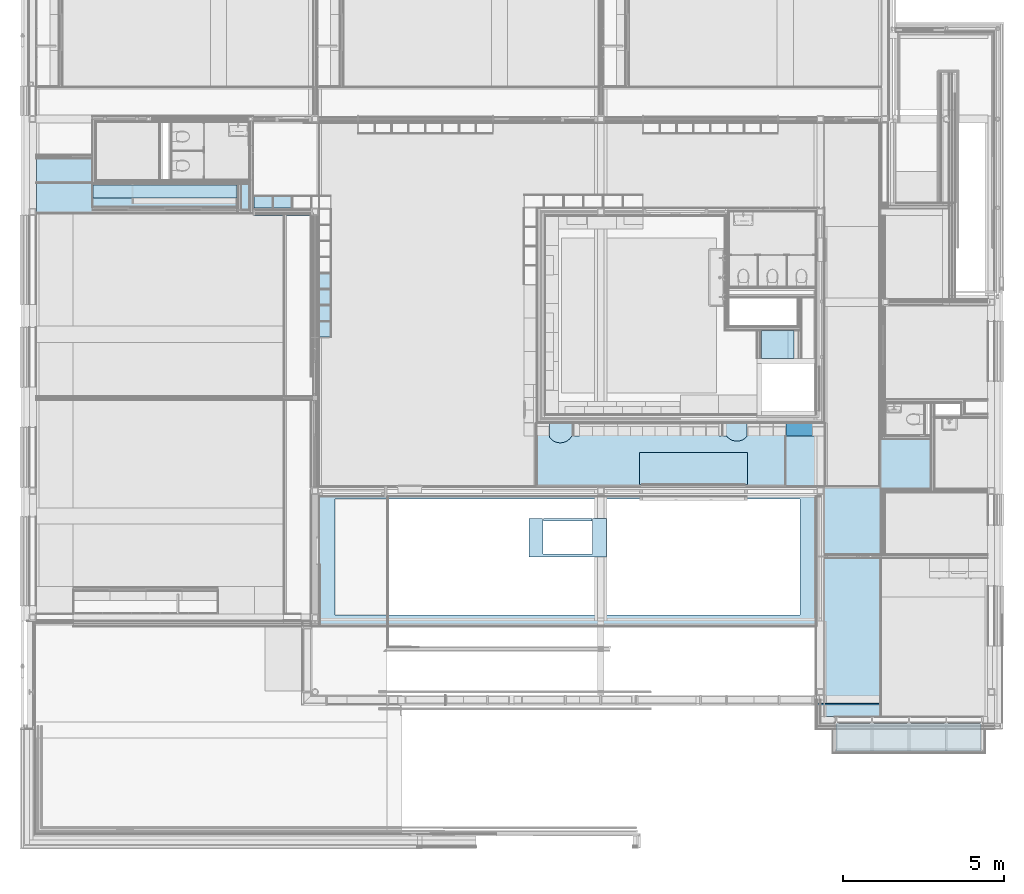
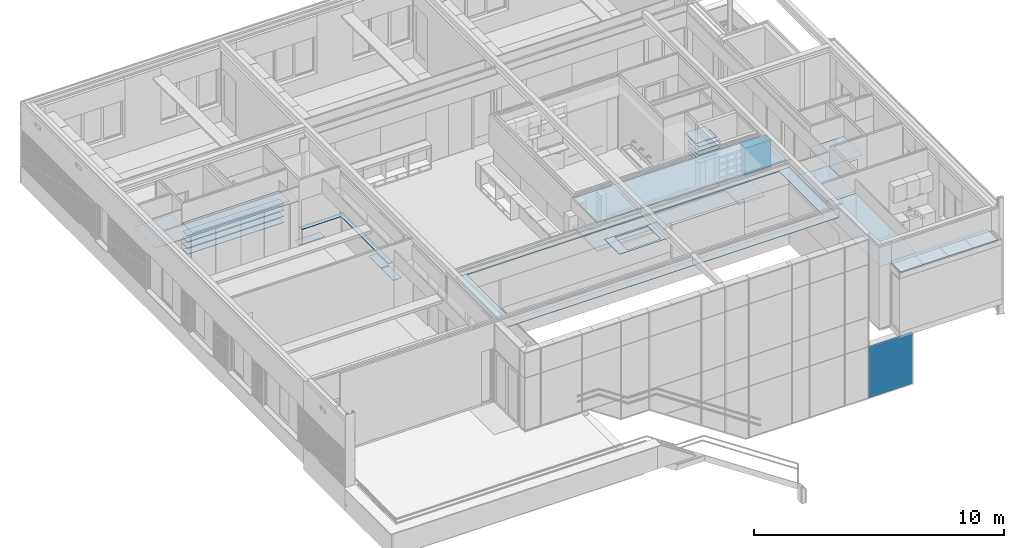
# One storey, part 38 of 137: 25 slabs, 1 plate, 1 element without a shape of its own.
"""IFC2X3 building model written with IfcOpenShell, lengths in millimetres."""

from ifc_helpers import new_model, entity, si_unit, converted_unit, derived_unit, money_unit, direction, frame, origin_with_axes, place, context, subcontext, project, spatial, faceted_brep, material, type_object, element, aggregate, save


model = new_model("IFC2X3")

# Units and contexts
model_context = context("Model", 3, precision=0.01, world=origin_with_axes(), true_north=direction((0.0, 1.0)))
body_context = subcontext(model_context, "Body", "Model", "MODEL_VIEW")
ifc_project = project(units=[si_unit("LENGTHUNIT", "METRE", prefix="MILLI"), si_unit("AREAUNIT", "SQUARE_METRE"), si_unit("VOLUMEUNIT", "CUBIC_METRE"), converted_unit("PLANEANGLEUNIT", "DEGREE", entity("IfcPlaneAngleMeasure", 0.0174532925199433), si_unit("PLANEANGLEUNIT", "RADIAN"), dimensions=[0, 0, 0, 0, 0, 0, 0]), money_unit("EUR"), converted_unit("TIMEUNIT", "Year", entity("IfcTimeMeasure", 31556926.0), si_unit("TIMEUNIT", "SECOND"), dimensions=[0, 0, 1, 0, 0, 0, 0]), si_unit("MASSUNIT", "GRAM", prefix="KILO"), si_unit("THERMODYNAMICTEMPERATUREUNIT", "DEGREE_CELSIUS"), si_unit("LUMINOUSINTENSITYUNIT", "LUMEN"), si_unit("ENERGYUNIT", "JOULE", prefix="MEGA"), derived_unit("THERMALCONDUCTANCEUNIT", [(si_unit("POWERUNIT", "WATT"), 1), (si_unit("LENGTHUNIT", "METRE"), -1), (si_unit("THERMODYNAMICTEMPERATUREUNIT", "KELVIN"), -1)]), derived_unit("SPECIFICHEATCAPACITYUNIT", [(si_unit("ENERGYUNIT", "JOULE"), 1), (si_unit("MASSUNIT", "GRAM", prefix="KILO"), -1), (si_unit("THERMODYNAMICTEMPERATUREUNIT", "KELVIN"), -1)]), derived_unit("MASSDENSITYUNIT", [(si_unit("MASSUNIT", "GRAM", prefix="KILO"), 1), (si_unit("VOLUMEUNIT", "CUBIC_METRE"), -1)])], contexts=[model_context])

# Site, building, storey
site_placement = place(None, origin_with_axes())
site = spatial("IfcSite", under=ifc_project, at=site_placement, Name="Site", CompositionType="ELEMENT")
building_placement = place(site_placement, origin_with_axes())
building = spatial("IfcBuilding", under=site, at=building_placement, Name="Naam gebouw", CompositionType="ELEMENT")
storey_placement = place(building_placement, frame((0.0, 0.0, 3960.0), z_axis=(0.0, 0.0, 1.0), x_axis=(1.0, 0.0, 0.0)))
storey = spatial("IfcBuildingStorey", under=building, at=storey_placement, Name="1e verdieping", CompositionType="ELEMENT", Elevation=3960.0)

# Slabs
ifc_material_1 = material(Name="Gipsplaat")
slab_type_1 = type_object("IfcSlabType", Name="Gipsplaat 12", PredefinedType="NOTDEFINED")
slab_1_placement = place(storey_placement, frame((213.9999999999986, 19387.4998112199, 2600.0), z_axis=(0.0, 0.0, 1.0), x_axis=(1.0, 0.0, 0.0)))
element("IfcSlab", 1, at=slab_1_placement, inside=storey, type_object=slab_type_1, material=ifc_material_1, Name="f7 Vormvaste grondstoffen, gebonden met gips_Vloer-x", PredefinedType="NOTDEFINED", context=body_context, shape_type="Brep", body=[
    faceted_brep([(0.0, 0.0, 11.99999999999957), (0.0, 0.0, 0.0), (6601.000000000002, 0.0, 0.0), (6601.000000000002, 0.0, 11.99999999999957), (0.0, 1707.476402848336, 11.99999999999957), (0.0, 1707.476402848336, 0.0), (1730.000000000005, 1707.476402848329, 0.0), (1730.000000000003, 917.4764028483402, 0.0), (6601.000000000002, 917.4764028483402, 0.0), (6601.000000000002, 917.4764028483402, 11.99999999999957), (1730.000000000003, 917.4764028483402, 11.99999999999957), (1730.000000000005, 1707.476402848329, 11.99999999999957)], [[[0, 1, 2, 3]], [[4, 5, 1, 0]], [[2, 1, 5, 6, 7, 8]], [[3, 2, 8, 9]], [[4, 0, 3, 9, 10, 11]], [[11, 6, 5, 4]], [[10, 7, 6, 11]], [[9, 8, 7, 10]]]),
])
slab_2_placement = place(storey_placement, frame((26323.50000000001, 10945.00008065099, 2600.0), z_axis=(0.0, 0.0, 1.0), x_axis=(1.0, 0.0, 0.0)))
element("IfcSlab", 2, at=slab_2_placement, inside=storey, type_object=slab_type_1, material=ifc_material_1, Name="f7 Vormvaste grondstoffen, gebonden met gips_Vloer-x", PredefinedType="NOTDEFINED", context=body_context, shape_type="Brep", body=[
    faceted_brep([(0.0, 0.0, 11.99999999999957), (0.0, 0.0, 0.0), (-1688.500960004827, 0.0, 0.0), (-1688.500960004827, 0.0, 11.99999999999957), (0.0, 1454.991507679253, 11.99999999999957), (0.0, 1454.991507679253, 0.0), (1601.497639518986, 1454.991507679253, 0.0), (1601.497639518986, -72.49997492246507, 0.0), (62.49998783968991, -72.49997492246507, 0.0), (62.49998783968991, -2105.000080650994, 0.0), (-1688.500960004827, -2105.000080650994, 0.0), (-1688.500960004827, -2105.000080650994, 11.99999999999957), (62.49998783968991, -2105.000080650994, 11.99999999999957), (62.49998783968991, -72.49997492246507, 11.99999999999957), (1601.497639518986, -72.49997492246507, 11.99999999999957), (1601.497639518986, 1454.991507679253, 11.99999999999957)], [[[0, 1, 2, 3]], [[4, 5, 1, 0]], [[2, 1, 5, 6, 7, 8, 9, 10]], [[3, 2, 10, 11]], [[4, 0, 3, 11, 12, 13, 14, 15]], [[15, 6, 5, 4]], [[14, 7, 6, 15]], [[13, 8, 7, 14]], [[12, 9, 8, 13]], [[11, 10, 9, 12]]]),
])
slab_3_placement = place(storey_placement, frame((22564.99903999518, 15774.99778168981, 2600.0), z_axis=(0.0, 0.0, 1.0), x_axis=(1.0, 0.0, 0.0)))
element("IfcSlab", 3, at=slab_3_placement, inside=storey, type_object=slab_type_1, material=ifc_material_1, Name="f7 Vormvaste grondstoffen, gebonden met gips_Vloer-x", PredefinedType="NOTDEFINED", context=body_context, shape_type="Brep", body=[
    faceted_brep([(0.0, 0.0, 12.00000000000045), (0.0, 0.0, 0.0), (-7.191758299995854e-08, -875.0000795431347, 0.0), (-7.191758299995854e-08, -875.0000795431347, 12.00000000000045), (934.9999999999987, -7.684874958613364e-08, 12.00000000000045), (934.9999999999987, -7.684874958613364e-08, 0.0), (934.9999999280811, -875.0000796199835, 0.0), (934.9999999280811, -875.0000796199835, 12.00000000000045)], [[[0, 1, 2, 3]], [[4, 5, 1, 0]], [[2, 1, 5, 6]], [[3, 2, 6, 7]], [[4, 0, 3, 7]], [[7, 6, 5, 4]]]),
])
slab_4_placement = place(storey_placement, frame((26386.00000000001, 8715.0, 2600.0), z_axis=(0.0, 0.0, 1.0), x_axis=(1.0, 0.0, 0.0)))
element("IfcSlab", 4, at=slab_4_placement, inside=storey, type_object=slab_type_1, material=ifc_material_1, Name="f7 Vormvaste grondstoffen, gebonden met gips_Vloer-x", PredefinedType="NOTDEFINED", context=body_context, shape_type="Brep", body=[
    faceted_brep([(0.0, 0.0, 11.99999999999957), (0.0, 0.0, 0.0), (-1751.000960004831, 0.0, 0.0), (-1751.000960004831, 0.0, 11.99999999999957), (0.0, -4901.000000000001, 11.99999999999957), (0.0, -4901.000000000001, 0.0), (-1751.000960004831, -4901.000000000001, 0.0), (-1751.000960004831, -4901.000000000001, 11.99999999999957)], [[[0, 1, 2, 3]], [[4, 5, 1, 0]], [[2, 1, 5, 6]], [[3, 2, 6, 7]], [[4, 0, 3, 7]], [[7, 6, 5, 4]]]),
])
ifc_material_2 = material(Name="Hout AFW")
slab_type_2 = type_object("IfcSlabType", Name="Hout AFW 18", PredefinedType="NOTDEFINED")
slab_5_placement = place(storey_placement, frame((8135.000015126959, 19950.00381393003, 267.9999999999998), z_axis=(0.0, 0.0, 1.0), x_axis=(1.0, 0.0, 0.0)))
element("IfcSlab", 5, at=slab_5_placement, inside=storey, type_object=slab_type_2, material=ifc_material_2, Name="i HOUT_Vloer-x", PredefinedType="NOTDEFINED", context=body_context, shape_type="Brep", body=[
    faceted_brep([(0.0, 0.0, 18.00000000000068), (0.0, 0.0, 0.0), (-1175.000015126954, 0.0, 0.0), (-1175.000015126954, 0.0, 18.00000000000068), (0.0, -380.006513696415, 18.00000000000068), (0.0, -380.006513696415, 0.0), (-1175.000015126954, -380.0065136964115, 0.0), (-1175.000015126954, -380.0065136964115, 18.00000000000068)], [[[0, 1, 2, 3]], [[4, 5, 1, 0]], [[2, 1, 5, 6]], [[3, 2, 6, 7]], [[4, 0, 3, 7]], [[7, 6, 5, 4]]]),
])
slab_6_placement = place(storey_placement, frame((9350.004002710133, 16564.99981090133, 267.9999999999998), z_axis=(0.0, 0.0, 1.0), x_axis=(1.0, 0.0, 0.0)))
element("IfcSlab", 6, at=slab_6_placement, inside=storey, type_object=slab_type_2, material=ifc_material_2, Name="i HOUT_Vloer-x", PredefinedType="NOTDEFINED", context=body_context, shape_type="Brep", body=[
    faceted_brep([(0.0, 0.0, 18.00000000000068), (0.0, 0.0, 0.0), (0.0, 975.0000003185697, 0.0), (0.0, 975.0000003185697, 18.00000000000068), (-380.006513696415, 0.0, 18.00000000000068), (-380.006513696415, 0.0, 0.0), (-380.006513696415, 975.0000003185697, 0.0), (-380.006513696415, 975.0000003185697, 18.00000000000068)], [[[0, 1, 2, 3]], [[4, 5, 1, 0]], [[2, 1, 5, 6]], [[3, 2, 6, 7]], [[4, 0, 3, 7]], [[7, 6, 5, 4]]]),
])
slab_7_placement = place(storey_placement, frame((8969.997489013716, 15569.9998112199, 267.9999999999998), z_axis=(0.0, 0.0, 1.0), x_axis=(1.0, 0.0, 0.0)))
element("IfcSlab", 7, at=slab_7_placement, inside=storey, type_object=slab_type_2, material=ifc_material_2, Name="i HOUT_Vloer-x", PredefinedType="NOTDEFINED", context=body_context, shape_type="Brep", body=[
    faceted_brep([(0.0, 0.0, 18.00000000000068), (0.0, 0.0, 0.0), (380.006513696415, 0.0, 0.0), (380.006513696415, 0.0, 18.00000000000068), (0.0, 974.9999996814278, 18.00000000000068), (0.0, 974.9999996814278, 0.0), (380.0065136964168, 974.9999996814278, 0.0), (380.0065136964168, 974.9999996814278, 18.00000000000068)], [[[0, 1, 2, 3]], [[4, 5, 1, 0]], [[2, 1, 5, 6]], [[3, 2, 6, 7]], [[4, 0, 3, 7]], [[7, 6, 5, 4]]]),
])
ifc_material_3 = material(Name="Hout - Multiplex")
slab_type_3 = type_object("IfcSlabType", Name="Hout - Multiplex 20", PredefinedType="NOTDEFINED")
slab_8_placement = place(storey_placement, frame((6940.000053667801, 19337.49983699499, 1200.0), z_axis=(0.0, 0.0, 1.0), x_axis=(1.0, 0.0, 0.0)))
element("IfcSlab", 8, at=slab_8_placement, inside=storey, type_object=slab_type_3, material=ifc_material_3, Name="i4 In lagen verlijmd hout_Vloer-x", PredefinedType="NOTDEFINED", context=body_context, shape_type="Brep", body=[
    faceted_brep([(0.0, 0.0, 0.0), (0.0, 0.0, -19.99999999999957), (1797.500308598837, 0.0, -19.99999999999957), (1797.500308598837, 0.0, 0.0), (0.0, 212.4999742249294, 0.0), (0.0, 212.4999742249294, -19.99999999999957), (2009.999925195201, 212.4999742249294, -19.99999999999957), (2009.999925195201, -3787.504028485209, -19.99999999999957), (1797.500308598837, -3787.504028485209, -19.99999999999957), (1797.500308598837, -3787.504028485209, 0.0), (2009.999925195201, -3787.504028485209, 0.0), (2009.999925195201, 212.4999742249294, 0.0)], [[[0, 1, 2, 3]], [[4, 5, 1, 0]], [[2, 1, 5, 6, 7, 8]], [[3, 2, 8, 9]], [[4, 0, 3, 9, 10, 11]], [[11, 6, 5, 4]], [[10, 7, 6, 11]], [[9, 8, 7, 10]]]),
])
slab_9_placement = place(storey_placement, frame((1964.000000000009, 19882.97621406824, 2300.0), z_axis=(0.0, 0.0, 1.0), x_axis=(1.0, 0.0, 0.0)))
element("IfcSlab", 9, at=slab_9_placement, inside=storey, type_object=slab_type_3, material=ifc_material_3, Name="i4 In lagen verlijmd hout_Vloer-x", PredefinedType="NOTDEFINED", context=body_context, shape_type="Brep", body=[
    faceted_brep([(0.0, 0.0, 0.0), (0.0, 0.0, -19.99999999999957), (4460.000000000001, 0.0, -19.99999999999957), (4460.000000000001, 0.0, 0.0), (0.0, 400.0000000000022, 0.0), (0.0, 400.0000000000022, -19.99999999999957), (4460.000000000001, 400.0000000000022, -19.99999999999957), (4460.000000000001, 400.0000000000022, 0.0)], [[[0, 1, 2, 3]], [[4, 5, 1, 0]], [[2, 1, 5, 6]], [[3, 2, 6, 7]], [[4, 0, 3, 7]], [[7, 6, 5, 4]]]),
])
slab_10_placement = place(storey_placement, frame((1964.000000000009, 19882.97621406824, 1999.999999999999), z_axis=(0.0, 0.0, 1.0), x_axis=(1.0, 0.0, 0.0)))
element("IfcSlab", 10, at=slab_10_placement, inside=storey, type_object=slab_type_3, material=ifc_material_3, Name="i4 In lagen verlijmd hout_Vloer-x", PredefinedType="NOTDEFINED", context=body_context, shape_type="Brep", body=[
    faceted_brep([(0.0, 0.0, 0.0), (0.0, 0.0, -19.99999999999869), (4460.000000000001, 0.0, -19.99999999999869), (4460.000000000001, 0.0, 0.0), (0.0, 400.0000000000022, 0.0), (0.0, 400.0000000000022, -19.99999999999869), (4460.000000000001, 400.0000000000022, -19.99999999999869), (4460.000000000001, 400.0000000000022, 0.0)], [[[0, 1, 2, 3]], [[4, 5, 1, 0]], [[2, 1, 5, 6]], [[3, 2, 6, 7]], [[4, 0, 3, 7]], [[7, 6, 5, 4]]]),
])
slab_11_placement = place(storey_placement, frame((1964.000000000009, 19882.97621406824, 1400.0), z_axis=(0.0, 0.0, 1.0), x_axis=(1.0, 0.0, 0.0)))
element("IfcSlab", 11, at=slab_11_placement, inside=storey, type_object=slab_type_3, material=ifc_material_3, Name="i4 In lagen verlijmd hout_Vloer-x", PredefinedType="NOTDEFINED", context=body_context, shape_type="Brep", body=[
    faceted_brep([(0.0, 0.0, 0.0), (0.0, 0.0, -19.99999999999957), (4460.000000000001, 0.0, -19.99999999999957), (4460.000000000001, 0.0, 0.0), (0.0, 400.0000000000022, 0.0), (0.0, 400.0000000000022, -19.99999999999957), (4460.000000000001, 400.0000000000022, -19.99999999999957), (4460.000000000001, 400.0000000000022, 0.0)], [[[0, 1, 2, 3]], [[4, 5, 1, 0]], [[2, 1, 5, 6]], [[3, 2, 6, 7]], [[4, 0, 3, 7]], [[7, 6, 5, 4]]]),
])
slab_12_placement = place(storey_placement, frame((1964.000000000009, 19882.97621406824, 1699.999999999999), z_axis=(0.0, 0.0, 1.0), x_axis=(1.0, 0.0, 0.0)))
element("IfcSlab", 12, at=slab_12_placement, inside=storey, type_object=slab_type_3, material=ifc_material_3, Name="i4 In lagen verlijmd hout_Vloer-x", PredefinedType="NOTDEFINED", context=body_context, shape_type="Brep", body=[
    faceted_brep([(0.0, 0.0, 0.0), (0.0, 0.0, -19.99999999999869), (4460.000000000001, 0.0, -19.99999999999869), (4460.000000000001, 0.0, 0.0), (0.0, 400.0000000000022, 0.0), (0.0, 400.0000000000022, -19.99999999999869), (4460.000000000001, 400.0000000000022, -19.99999999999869), (4460.000000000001, 400.0000000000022, 0.0)], [[[0, 1, 2, 3]], [[4, 5, 1, 0]], [[2, 1, 5, 6]], [[3, 2, 6, 7]], [[4, 0, 3, 7]], [[7, 6, 5, 4]]]),
])
slab_13_placement = place(storey_placement, frame((1964.000000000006, 19477.97621406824, 2689.999999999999), z_axis=(0.0, 0.0, 1.0), x_axis=(1.0, 0.0, 0.0)))
element("IfcSlab", 13, at=slab_13_placement, inside=storey, type_object=slab_type_3, material=ifc_material_3, Name="i4 In lagen verlijmd hout_Vloer-x", PredefinedType="NOTDEFINED", context=body_context, shape_type="Brep", body=[
    faceted_brep([(0.0, 0.0, 0.0), (0.0, 0.0, -19.99999999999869), (4460.000000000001, 0.0, -19.99999999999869), (4460.000000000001, 0.0, 0.0), (0.0, 825.0000000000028, 0.0), (0.0, 825.0000000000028, -19.99999999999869), (4460.000000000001, 825.0000000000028, -19.99999999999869), (4460.000000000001, 825.0000000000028, 0.0)], [[[0, 1, 2, 3]], [[4, 5, 1, 0]], [[2, 1, 5, 6]], [[3, 2, 6, 7]], [[4, 0, 3, 7]], [[7, 6, 5, 4]]]),
])
ifc_material_4 = material(Name="Isolatie - Kunststof hard")
slab_type_4 = type_object("IfcSlabType", Name="Isolatie - Kunststof hard 78", PredefinedType="NOTDEFINED")
slab_14_placement = place(storey_placement, frame((24979.99903898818, 3600.000178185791, 2792.000000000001), z_axis=(0.0, 0.0, 1.0), x_axis=(1.0, 0.0, 0.0)))
element("IfcSlab", 14, at=slab_14_placement, inside=storey, type_object=slab_type_4, material=ifc_material_4, Name="n7 Kunststof met cellenstructuur_Vloer-x", PredefinedType="NOTDEFINED", context=body_context, shape_type="Brep", body=[
    faceted_brep([(0.0, 0.0, 78.00000000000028), (0.0, 0.0, 0.0), (0.0, -850.0001781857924, 0.0), (0.0, -850.0001781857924, 78.00000000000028), (4500.001821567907, 0.0, 78.00000000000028), (4500.001821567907, 0.0, 0.0), (4500.001821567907, -850.0001781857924, 0.0), (4500.001821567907, -850.0001781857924, 78.00000000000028)], [[[0, 1, 2, 3]], [[4, 5, 1, 0]], [[2, 1, 5, 6]], [[3, 2, 6, 7]], [[4, 0, 3, 7]], [[7, 6, 5, 4]]]),
])
slab_type_5 = type_object("IfcSlabType", Name="Gipsplaat 25", PredefinedType="NOTDEFINED")
slab_15_placement = place(storey_placement, frame((8985.001509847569, 6605.0, 3400.0), z_axis=(0.0, 0.0, 1.0), x_axis=(1.0, 0.0, 0.0)))
element("IfcSlab", 15, at=slab_15_placement, inside=storey, type_object=slab_type_5, material=ifc_material_1, Name="f7 Vormvaste grondstoffen, gebonden met gips_Vloer-x", PredefinedType="NOTDEFINED", context=body_context, shape_type="Brep", body=[
    faceted_brep([(0.0, 0.0, 24.99999999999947), (0.0, 0.0, 0.0), (15379.99753014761, 0.0, 0.0), (15379.99753014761, 0.0, 24.99999999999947), (0.0, 4015.000094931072, 24.99999999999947), (0.0, 4015.000094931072, 0.0), (15379.99753014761, 4015.000094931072, 0.0), (14889.99753939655, 3950.00031890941, 0.0), (489.9974697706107, 3950.00031890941, 0.0), (489.9974697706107, 350.0002129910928, 0.0), (14889.99753939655, 350.0002129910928, 0.0), (15379.99753014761, 4015.000094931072, 24.99999999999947), (489.9974697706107, 350.0002129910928, 24.99999999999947), (489.9974697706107, 3950.00031890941, 24.99999999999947), (14889.99753939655, 3950.00031890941, 24.99999999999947), (14889.99753939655, 350.0002129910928, 24.99999999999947)], [[[0, 1, 2, 3]], [[4, 5, 1, 0]], [[2, 1, 5, 6], [7, 8, 9, 10]], [[3, 2, 6, 11]], [[4, 0, 3, 11], [12, 13, 14, 15]], [[11, 6, 5, 4]], [[13, 8, 7, 14]], [[12, 9, 8, 13]], [[15, 10, 9, 12]], [[14, 7, 10, 15]]]),
])
slab_16_placement = place(storey_placement, frame((15474.99903999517, 8755.000212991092, 3400.0), z_axis=(0.0, 0.0, 1.0), x_axis=(1.0, 0.0, 0.0)))
element("IfcSlab", 16, at=slab_16_placement, inside=storey, type_object=slab_type_5, material=ifc_material_1, Name="f7 Vormvaste grondstoffen, gebonden met gips_Vloer-x", PredefinedType="NOTDEFINED", context=body_context, shape_type="Brep", body=[
    faceted_brep([(437.5000000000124, 102.5001059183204, 24.99999999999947), (437.5000000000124, 1127.500105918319, 24.99999999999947), (437.5000000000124, 1140.00010591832, 24.99999999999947), (425.0000000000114, 1140.00010591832, 24.99999999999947), (425.0000000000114, 1200.000000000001, 24.99999999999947), (0.0, 1200.000000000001, 24.99999999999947), (0.0, 0.0, 24.99999999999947), (2400.0, 0.0, 24.99999999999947), (2400.0, 1200.000000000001, 24.99999999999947), (1975.00000000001, 1200.000000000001, 24.99999999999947), (1975.00000000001, 1140.00010591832, 24.99999999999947), (1962.500000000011, 1140.00010591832, 24.99999999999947), (1962.500000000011, 1127.500105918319, 24.99999999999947), (1962.500000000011, 115.0001059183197, 24.99999999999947), (1962.500000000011, 102.5001059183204, 24.99999999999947), (1950.000000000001, 102.5001059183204, 24.99999999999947), (1950.000000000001, 100.0001059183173, 24.99999999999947), (450.0000000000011, 100.0001059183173, 24.99999999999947), (450.0000000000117, 102.5001059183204, 24.99999999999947), (437.5000000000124, 102.5001059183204, 0.0), (437.5000000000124, 1127.500105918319, 0.0), (437.5000000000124, 1140.00010591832, 0.0), (425.0000000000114, 1140.00010591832, 0.0), (425.0000000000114, 1200.000000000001, 0.0), (0.0, 1200.000000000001, 0.0), (0.0, 0.0, 0.0), (2400.0, 0.0, 0.0), (2400.0, 1200.000000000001, 0.0), (1975.00000000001, 1200.000000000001, 0.0), (1975.00000000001, 1140.00010591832, 0.0), (1962.500000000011, 1140.00010591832, 0.0), (1962.500000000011, 1127.500105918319, 0.0), (1962.500000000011, 115.0001059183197, 0.0), (1962.500000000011, 102.5001059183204, 0.0), (1950.000000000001, 102.5001059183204, 0.0), (1950.000000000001, 100.0001059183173, 0.0), (450.0000000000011, 100.0001059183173, 0.0), (450.0000000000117, 102.5001059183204, 0.0)], [[[0, 1, 2, 3, 4, 5, 6, 7, 8, 9, 10, 11, 12, 13, 14, 15, 16, 17, 18]], [[19, 20, 1, 0]], [[20, 21, 2, 1]], [[3, 2, 21, 22]], [[22, 23, 4, 3]], [[5, 4, 23, 24]], [[6, 5, 24, 25]], [[7, 6, 25, 26]], [[8, 7, 26, 27]], [[27, 28, 9, 8]], [[29, 10, 9, 28]], [[29, 30, 11, 10]], [[31, 12, 11, 30]], [[13, 12, 31, 32]], [[14, 13, 32, 33]], [[34, 15, 14, 33]], [[16, 15, 34, 35]], [[17, 16, 35, 36]], [[36, 37, 18, 17]], [[19, 0, 18, 37]], [[22, 21, 20, 19, 37, 36, 35, 34, 33, 32, 31, 30, 29, 28, 27, 26, 25, 24, 23]]]),
    faceted_brep([(450.0000000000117, 1200.000000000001, 24.99999999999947), (450.0000000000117, 1200.000000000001, 0.0), (450.0000000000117, 1127.500105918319, 0.0), (450.0000000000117, 1127.500105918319, 24.99999999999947), (1950.000000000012, 1200.000000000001, 0.0), (1950.000000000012, 1200.000000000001, 24.99999999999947), (450.0000000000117, 1115.00010591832, 0.0), (1950.000000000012, 1127.500105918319, 0.0), (1950.000000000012, 1115.00010591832, 0.0), (450.0000000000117, 1115.00010591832, 24.99999999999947), (1950.000000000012, 1115.00010591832, 24.99999999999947), (1950.000000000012, 1127.500105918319, 24.99999999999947)], [[[0, 1, 2, 3]], [[4, 1, 0, 5]], [[6, 2, 1, 4, 7, 8]], [[9, 3, 2, 6]], [[0, 3, 9, 10, 11, 5]], [[4, 5, 11, 7]], [[8, 7, 11, 10]], [[6, 8, 10, 9]]]),
])
ifc_material_5 = material(Name="ALG - BINNENAFWERKING")
slab_type_6 = type_object("IfcSlabType", Name="ALG - BINNENAFWERKING 1337", PredefinedType="NOTDEFINED")
slab_17_placement = place(storey_placement, frame((23434.99903999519, 12504.99776626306, 3527.000000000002), z_axis=(0.0, 0.0, 1.0), x_axis=(1.0, 0.0, 0.0)))
element("IfcSlab", 17, at=slab_17_placement, inside=storey, type_object=slab_type_6, material=ifc_material_5, Name="_Vloer-x", PredefinedType="NOTDEFINED", context=body_context, shape_type="Brep", body=[
    faceted_brep([(0.0, 0.0, 0.0), (0.0, 0.0, -1337.000000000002), (1199.999999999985, 0.0, -1337.000000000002), (1199.999999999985, 0.0, 0.0), (0.0, 425.0095126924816, 0.0), (0.0, 425.0095126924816, -1337.000000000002), (399.9999971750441, 425.0095126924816, -1337.000000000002), (399.9999971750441, 399.9999971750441, -1337.000000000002), (1199.999999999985, 399.9999971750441, -1337.000000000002), (1199.999999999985, 399.9999971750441, 0.0), (399.9999971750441, 399.9999971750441, 0.0), (399.9999971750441, 425.0095126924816, 0.0)], [[[0, 1, 2, 3]], [[4, 5, 1, 0]], [[2, 1, 5, 6, 7, 8]], [[3, 2, 8, 9]], [[4, 0, 3, 9, 10, 11]], [[11, 6, 5, 4]], [[10, 7, 6, 11]], [[9, 8, 7, 10]]]),
])
slab_type_7 = type_object("IfcSlabType", Name="Gipsplaat 33", PredefinedType="NOTDEFINED")
slab_18_placement = place(storey_placement, frame((16114.99944436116, 12904.99781947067, 3527.000000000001), z_axis=(0.0, 0.0, 1.0), x_axis=(1.0, 0.0, 0.0)))
element("IfcSlab", 18, at=slab_18_placement, inside=storey, type_object=slab_type_7, material=ifc_material_1, Name="f7 Vormvaste grondstoffen, gebonden met gips_Vloer-x", PredefinedType="NOTDEFINED", context=body_context, shape_type="Brep", body=[
    faceted_brep([(-399.9999904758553, 0.0, 33.00000000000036), (-399.9999904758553, 0.0, 0.0), (-399.9999904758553, -1954.997681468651, 0.0), (-399.9999904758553, -1954.997681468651, 33.00000000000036), (8519.999595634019, 0.0, 33.00000000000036), (8519.999595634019, 0.0, 0.0), (8519.999595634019, -2009.997708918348, 0.0), (2785.000019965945, -2009.997708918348, 0.0), (2785.000019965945, -1954.997681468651, 0.0), (2785.000019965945, -1954.997681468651, 33.00000000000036), (2785.000019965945, -2009.997708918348, 33.00000000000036), (8519.999595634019, -2009.997708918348, 33.00000000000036)], [[[0, 1, 2, 3]], [[4, 5, 1, 0]], [[1, 5, 6, 7, 8, 2]], [[3, 2, 8, 9]], [[0, 3, 9, 10, 11, 4]], [[11, 6, 5, 4]], [[10, 7, 6, 11]], [[9, 8, 7, 10]]]),
])
slab_type_8 = type_object("IfcSlabType", Name="Hout AFW 20", PredefinedType="NOTDEFINED")
slab_19_placement = place(storey_placement, frame((18899.99942456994, 11999.38052010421, 2169.999999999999), z_axis=(0.0, 0.0, 1.0), x_axis=(1.0, 0.0, 0.0)))
element("IfcSlab", 19, at=slab_19_placement, inside=storey, type_object=slab_type_8, material=ifc_material_2, Name="i HOUT_Vloer-x", PredefinedType="NOTDEFINED", context=body_context, shape_type="Brep", body=[
    faceted_brep([(0.0, 0.0, 0.0), (0.0, 0.0, -19.99999999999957), (0.0, -994.3804095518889, -19.99999999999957), (0.0, -994.3804095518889, 0.0), (3345.000000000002, 0.0, 0.0), (3345.000000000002, 0.0, -19.99999999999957), (3345.000000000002, -994.3804095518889, -19.99999999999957), (3345.000000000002, -994.3804095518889, 0.0)], [[[0, 1, 2, 3]], [[4, 5, 1, 0]], [[2, 1, 5, 6]], [[3, 2, 6, 7]], [[4, 0, 3, 7]], [[7, 6, 5, 4]]]),
])
slab_type_9 = type_object("IfcSlabType", Name="Hout AFW 90", PredefinedType="NOTDEFINED")
slab_20_placement = place(storey_placement, frame((16114.99944464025, 12904.99779570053, 2100.0), z_axis=(0.0, 0.0, 1.0), x_axis=(1.0, 0.0, 0.0)))
element("IfcSlab", 20, at=slab_20_placement, inside=storey, type_object=slab_type_9, material=ifc_material_2, Name="i HOUT_Vloer-x", PredefinedType="NOTDEFINED", context=body_context, shape_type="Brep", body=[
    faceted_brep([(0.0, 0.0, 89.99999999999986), (0.0, 0.0, 0.0), (-399.9999907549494, 0.0, 0.0), (-399.9999907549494, 0.0, 89.99999999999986), (0.0, -434.110326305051, 89.99999999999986), (0.0, -434.110326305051, 0.0), (17.96082653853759, -460.2384135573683, 0.0), (61.61489116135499, -506.231843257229, 0.0), (111.9264593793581, -544.8300172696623, 0.0), (167.6566934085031, -575.0825204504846, 0.0), (227.4333299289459, -596.2444357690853, 0.0), (289.7844697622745, -607.7946866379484, 0.0), (353.1748209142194, -609.4488675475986, 0.0), (416.0435025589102, -601.1662470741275, 0.0), (476.8424791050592, -583.1507708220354, 0.0), (534.0746779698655, -555.8460396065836, 0.0), (586.3308524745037, -519.9243865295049, 0.0), (632.3242821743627, -476.270321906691, 0.0), (670.9224561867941, -425.9587536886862, 0.0), (685.0072019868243, -399.9999904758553, 0.0), (925.007196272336, -399.9999904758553, 0.0), (925.007196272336, 0.0, 0.0), (5245.007208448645, 0.0, 0.0), (5245.007208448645, -399.9999904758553, 0.0), (5485.007173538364, -399.9999904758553, 0.0), (5504.648588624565, -425.6309355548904, 0.0), (5551.645701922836, -469.9275885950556, 0.0), (5605.139897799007, -506.1117444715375, 0.0), (5663.745704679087, -533.2462525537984, 0.0), (5725.9452629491, -550.6283433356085, 0.0), (5790.127636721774, -557.8078297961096, 0.0), (5854.630536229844, -554.598767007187, 0.0), (5917.783370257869, -541.0842680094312, 0.0), (5977.950513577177, -517.614351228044, 0.0), (6033.573668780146, -484.796875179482, 0.0), (6083.212225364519, -443.4817952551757, 0.0), (6119.999623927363, -399.9999904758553, 0.0), (6119.99962392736, 0.0, 0.0), (7319.999595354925, 0.0, 0.0), (7319.999595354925, -1959.997652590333, 0.0), (6130.000026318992, -1959.997652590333, 0.0), (6130.000026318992, -905.6173536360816, 0.0), (2785.000019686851, -905.6173536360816, 0.0), (2785.000019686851, -1959.997767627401, 0.0), (-399.9999907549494, -1959.997767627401, 0.0), (-399.9999907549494, -1959.997767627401, 89.99999999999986), (2785.000019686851, -1959.997767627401, 89.99999999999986), (2785.000019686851, -905.6173536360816, 89.99999999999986), (6130.000026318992, -905.6173536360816, 89.99999999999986), (6130.000026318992, -1959.997652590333, 89.99999999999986), (7319.999595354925, -1959.997652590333, 89.99999999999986), (7319.999595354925, 0.0, 89.99999999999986), (6119.99962392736, 0.0, 89.99999999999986), (6119.999623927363, -399.9999904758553, 89.99999999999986), (6083.212225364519, -443.4817952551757, 89.99999999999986), (6033.573668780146, -484.796875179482, 89.99999999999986), (5977.950513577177, -517.614351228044, 89.99999999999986), (5917.783370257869, -541.0842680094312, 89.99999999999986), (5854.630536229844, -554.598767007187, 89.99999999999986), (5790.127636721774, -557.8078297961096, 89.99999999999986), (5725.9452629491, -550.6283433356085, 89.99999999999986), (5663.745704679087, -533.2462525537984, 89.99999999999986), (5605.139897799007, -506.1117444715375, 89.99999999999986), (5551.645701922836, -469.9275885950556, 89.99999999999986), (5504.648588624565, -425.6309355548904, 89.99999999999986), (5485.007173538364, -399.9999904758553, 89.99999999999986), (5245.007208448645, -399.9999904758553, 89.99999999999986), (5245.007208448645, 0.0, 89.99999999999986), (925.007196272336, 0.0, 89.99999999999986), (925.007196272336, -399.9999904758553, 89.99999999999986), (685.0072019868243, -399.9999904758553, 89.99999999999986), (670.9224561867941, -425.9587536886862, 89.99999999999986), (632.3242821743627, -476.270321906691, 89.99999999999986), (586.3308524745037, -519.9243865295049, 89.99999999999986), (534.0746779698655, -555.8460396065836, 89.99999999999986), (476.8424791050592, -583.1507708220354, 89.99999999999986), (416.0435025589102, -601.1662470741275, 89.99999999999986), (353.1748209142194, -609.4488675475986, 89.99999999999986), (289.7844697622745, -607.7946866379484, 89.99999999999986), (227.4333299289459, -596.2444357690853, 89.99999999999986), (167.6566934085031, -575.0825204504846, 89.99999999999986), (111.9264593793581, -544.8300172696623, 89.99999999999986), (61.61489116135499, -506.231843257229, 89.99999999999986), (17.96082653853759, -460.2384135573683, 89.99999999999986)], [[[0, 1, 2, 3]], [[4, 5, 1, 0]], [[2, 1, 5, 6, 7, 8, 9, 10, 11, 12, 13, 14, 15, 16, 17, 18, 19, 20, 21, 22, 23, 24, 25, 26, 27, 28, 29, 30, 31, 32, 33, 34, 35, 36, 37, 38, 39, 40, 41, 42, 43, 44]], [[3, 2, 44, 45]], [[4, 0, 3, 45, 46, 47, 48, 49, 50, 51, 52, 53, 54, 55, 56, 57, 58, 59, 60, 61, 62, 63, 64, 65, 66, 67, 68, 69, 70, 71, 72, 73, 74, 75, 76, 77, 78, 79, 80, 81, 82, 83]], [[83, 6, 5, 4]], [[82, 7, 6, 83]], [[81, 8, 7, 82]], [[80, 9, 8, 81]], [[79, 10, 9, 80]], [[78, 11, 10, 79]], [[77, 12, 11, 78]], [[76, 13, 12, 77]], [[75, 14, 13, 76]], [[74, 15, 14, 75]], [[73, 16, 15, 74]], [[72, 17, 16, 73]], [[71, 18, 17, 72]], [[70, 19, 18, 71]], [[69, 20, 19, 70]], [[68, 21, 20, 69]], [[67, 22, 21, 68]], [[66, 23, 22, 67]], [[65, 24, 23, 66]], [[64, 25, 24, 65]], [[63, 26, 25, 64]], [[62, 27, 26, 63]], [[61, 28, 27, 62]], [[60, 29, 28, 61]], [[59, 30, 29, 60]], [[58, 31, 30, 59]], [[57, 32, 31, 58]], [[56, 33, 32, 57]], [[55, 34, 33, 56]], [[54, 35, 34, 55]], [[53, 36, 35, 54]], [[52, 37, 36, 53]], [[51, 38, 37, 52]], [[50, 39, 38, 51]], [[49, 40, 39, 50]], [[48, 41, 40, 49]], [[47, 42, 41, 48]], [[46, 43, 42, 47]], [[45, 44, 43, 46]]]),
])

# Curtain wall, plate
curtain_wall_type = type_object("IfcCurtainWallType", Name="Curtain Wall Type", PredefinedType="NOTDEFINED")
curtain_wall_placement = place(storey_placement, frame((8473.014787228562, 4364.43626274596, -3949.999921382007), z_axis=(0.0, 0.0, 1.0), x_axis=(1.0, 0.0, 0.0)))
curtain_wall = element("IfcCurtainWall", 21, at=curtain_wall_placement, inside=storey, type_object=curtain_wall_type, Name="21_Vliesgevel-x")
ifc_material_6 = material(Name="Glas")
plate_type = type_object("IfcPlateType", Name="Main Panel 1978 x 10 x 42", PredefinedType="CURTAIN_PANEL")
plate_placement = place(curtain_wall_placement, frame((16628.19154364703, -161.4362627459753, 1874.37495163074), z_axis=(0.0, 0.0, 1.0), x_axis=(-1.0, 0.0, 0.0)))
plate = element("IfcPlate", 22, at=plate_placement, type_object=plate_type, material=ifc_material_6, Name="o GLAS_Paneel-x", ObjectType="CURTAIN_PANEL", context=body_context, shape_type="Brep", body=[
    faceted_brep([(-1239.795126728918, -20.99999999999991, 660.6250782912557), (738.2430099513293, -20.99999999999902, 660.6250782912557), (738.2430099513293, 21.0000000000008, 660.6250782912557), (-1239.795126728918, 20.99999999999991, 660.6250782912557), (-1239.795126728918, -20.99999999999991, 565.6248295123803), (-1239.795126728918, -20.99999999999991, -1839.374969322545), (761.5356231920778, -20.99999999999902, -1839.374931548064), (761.5355854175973, -20.99999999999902, 565.6248295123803), (761.5355854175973, -20.99999999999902, 635.6250207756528), (771.5355857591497, -20.99999999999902, 635.6250207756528), (771.5355857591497, -20.99999999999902, 650.6250779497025), (738.2430099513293, -20.99999999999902, 650.6250779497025), (738.2430099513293, 21.0000000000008, 650.6250779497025), (771.5355857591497, 21.0000000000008, 650.6250779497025), (771.5355857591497, 21.0000000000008, 635.6250207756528), (761.5355854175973, 21.0000000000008, 635.6250207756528), (761.5355854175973, 21.0000000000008, 565.6248295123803), (761.5356231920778, 21.0000000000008, -1839.374931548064), (-1239.795126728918, 20.99999999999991, -1839.374969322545), (-1239.795126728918, 20.99999999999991, 565.6248295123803)], [[[0, 1, 2, 3]], [[0, 4, 5, 6, 7, 8, 9, 10, 11, 1]], [[1, 11, 12, 2]], [[3, 2, 12, 13, 14, 15, 16, 17, 18, 19]], [[4, 0, 3, 19]], [[5, 4, 19, 18]], [[6, 5, 18, 17]], [[7, 6, 17, 16]], [[8, 7, 16, 15]], [[9, 8, 15, 14]], [[10, 9, 14, 13]], [[11, 10, 13, 12]]]),
])
aggregate(curtain_wall, [plate])

# Slabs
ifc_material_7 = material(Name="Metaal - Staal AFW")
slab_type_10 = type_object("IfcSlabType", Name="Metaal - Staal AFW 18", PredefinedType="NOTDEFINED")
for number, where, z_axis, x_axis, name in (
    (23, (23687.49903999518, 15774.9977815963, 1599.999999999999), (0.0, 0.0, 1.0), (1.0, 0.0, 0.0), "h METAAL_Vloer-x"),
    (24, (23687.49903999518, 15774.9977815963, 1800.0), (0.0, 0.0, 1.0), (1.0, 0.0, 0.0), "h METAAL_Vloer-x"),
    (25, (23687.49903999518, 15774.9977815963, 2000.0), (0.0, 0.0, 1.0), (1.0, 0.0, 0.0), "h METAAL_Vloer-x"),
    (26, (23687.49903999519, 15774.9977815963, 2199.999999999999), (0.0, 0.0, 1.0), (1.0, 0.0, 0.0), "h METAAL_Vloer-x"),
    (27, (23687.49903999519, 15774.9977815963, 2400.0), (0.0, 0.0, 1.0), (1.0, 0.0, 0.0), "h METAAL_Vloer-x"),
):
    element("IfcSlab", number, at=place(storey_placement, frame(where, z_axis=z_axis, x_axis=x_axis)), inside=storey, type_object=slab_type_10, material=ifc_material_7, Name=name, PredefinedType="NOTDEFINED", context=body_context, shape_type="Brep", body=[
        faceted_brep([(0.0, 0.0, 0.0), (0.0, 0.0, -17.99999999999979), (-1015.497195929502, 0.0, -17.99999999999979), (-1015.497195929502, 0.0, 0.0), (0.0, -865.0004801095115, 0.0), (0.0, -865.0004801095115, -17.99999999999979), (-1015.497195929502, -865.0004801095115, -17.99999999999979), (-1015.497195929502, -865.0004801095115, 0.0)], [[[0, 1, 2, 3]], [[4, 5, 1, 0]], [[2, 1, 5, 6]], [[3, 2, 6, 7]], [[4, 0, 3, 7]], [[7, 6, 5, 4]]]),
    ])

save(model, "model.ifc")
